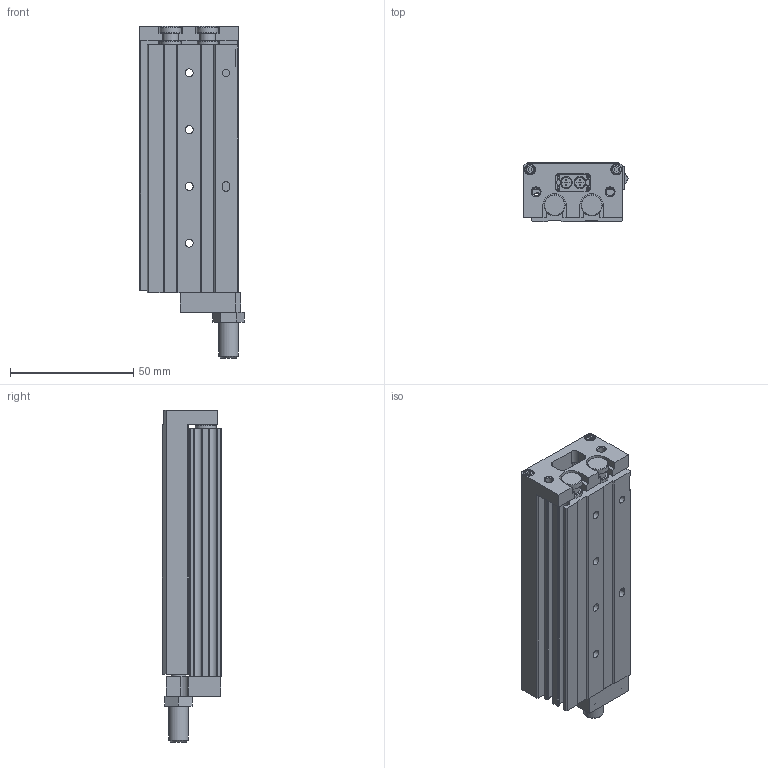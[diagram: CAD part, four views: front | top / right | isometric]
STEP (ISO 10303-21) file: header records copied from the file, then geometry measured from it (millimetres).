
FILE_DESCRIPTION( ( 'STEP AP214' ), '1' );
FILE_NAME( 'C:/Users/EMC02301/Desktop/ELSL图纸/ELSL8X50-S-AF.stp', '2026-08-05T07:03:44', ( 'License CC BY-ND 4.0' ), ( 'CADENAS' ), ' ', 'PARTsolutions', ' ' );
FILE_SCHEMA( ( 'AUTOMOTIVE_DESIGN { 1 0 10303 214 1 1 1 1 }' ) );
Length unit declared in the file: millimetre
Products named in the file (4): ELSL8X50-S-AF(0)(); _ELSL8X50-S-AF(HX-07)(HX-07-1)(0-body); _ELSL8X50-S-AF(0-rod); _FJ-ELSL8-(AF)
Assembly tree (3 placements, depth 2):
  ELSL8X50-S-AF(0)()
    _ELSL8X50-S-AF(HX-07)(HX-07-1)(0-body)
    _ELSL8X50-S-AF(0-rod)
    _FJ-ELSL8-(AF)
Bounding box: 42.35 x 24 x 134.5 mm (x, y, z)
Volume: 87452.7 mm3; surface area: 44660.3 mm2
Topology: 3 solids, 3 shells, 503 faces, 1247 edges, 812 vertices
Faces by surface type: plane 375, cylinder 97, cone 29, torus 2
Full cylindrical faces by diameter (mm): 2.459 x14, 3 x2, 3.242 x6, 3.3 x4, 4 x6, 4.2 x8, 4.4 x2, 4.459 x2, 4.8 x8, 5.4 x4, 5.8 x4, 6 x1, 7 x8, 8 x5, 8.5 x6, 9.2 x2
Entity records: 18152 total; most frequent: CARTESIAN_POINT 2403, DIRECTION 2366, ORIENTED_EDGE 2218, EDGE_CURVE 1109, LINE 866, VECTOR 866, VERTEX_POINT 787, AXIS2_PLACEMENT_3D 750
